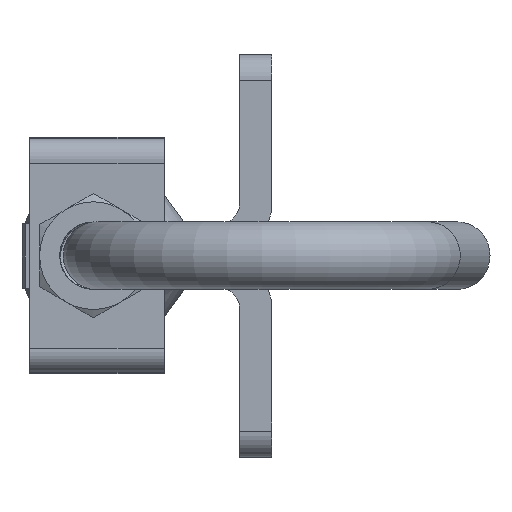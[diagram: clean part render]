
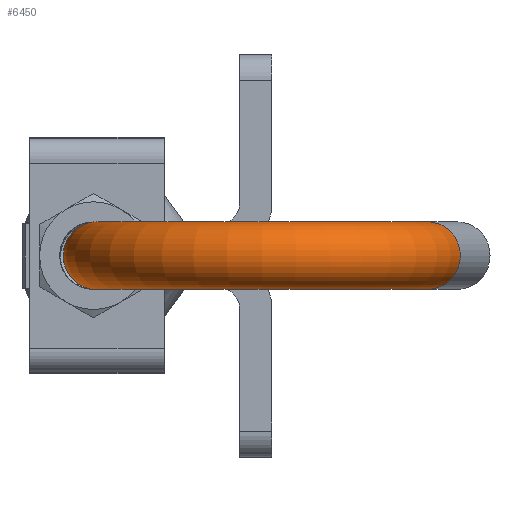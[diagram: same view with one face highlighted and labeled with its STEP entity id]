
A CAD part, left-side view. The second image highlights one B-rep face of the part: STEP entity #6450.
In plain terms, the highlighted toroidal (fillet/blend) face has major radius 7.812 mm and minor radius 1.565 mm.
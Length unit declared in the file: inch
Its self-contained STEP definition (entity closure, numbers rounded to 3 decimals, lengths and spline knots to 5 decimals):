
#6419=CARTESIAN_POINT('',(12.38896,1.02032,-0.13984));
#6420=VERTEX_POINT('',#6419);
#6421=CARTESIAN_POINT('',(12.40491,1.07984,-0.13984));
#6422=DIRECTION('',(-0.966,0.259,0.));
#6423=DIRECTION('',(-0.259,-0.966,0.));
#6424=AXIS2_PLACEMENT_3D('',#6421,#6422,#6423);
#6425=CIRCLE('',#6424,0.06161);
#6426=EDGE_CURVE('',#6420,#6420,#6425,.T.);
#6431=CARTESIAN_POINT('',(12.48452,1.37694,-0.13984));
#6432=DIRECTION('',(0.,0.,1.0));
#6433=DIRECTION('',(1.0,0.0,0.0));
#6434=AXIS2_PLACEMENT_3D('',#6431,#6432,#6433);
#6435=TOROIDAL_SURFACE('',#6434,0.30758,0.06161);
#6436=ORIENTED_EDGE('',*,*,#6426,.T.);
#6437=EDGE_LOOP('',(#6436));
#6438=FACE_OUTER_BOUND('',#6437,.T.);
#6439=CARTESIAN_POINT('',(12.48452,1.74613,-0.13984));
#6440=VERTEX_POINT('',#6439);
#6441=CARTESIAN_POINT('',(12.48452,1.68452,-0.13984));
#6442=DIRECTION('',(1.0,0.0,0.0));
#6443=DIRECTION('',(0.0,1.0,0.0));
#6444=AXIS2_PLACEMENT_3D('',#6441,#6442,#6443);
#6445=CIRCLE('',#6444,0.06161);
#6446=EDGE_CURVE('',#6440,#6440,#6445,.T.);
#6447=ORIENTED_EDGE('',*,*,#6446,.F.);
#6448=EDGE_LOOP('',(#6447));
#6449=FACE_BOUND('',#6448,.T.);
#6450=ADVANCED_FACE('',(#6438,#6449),#6435,.T.);
